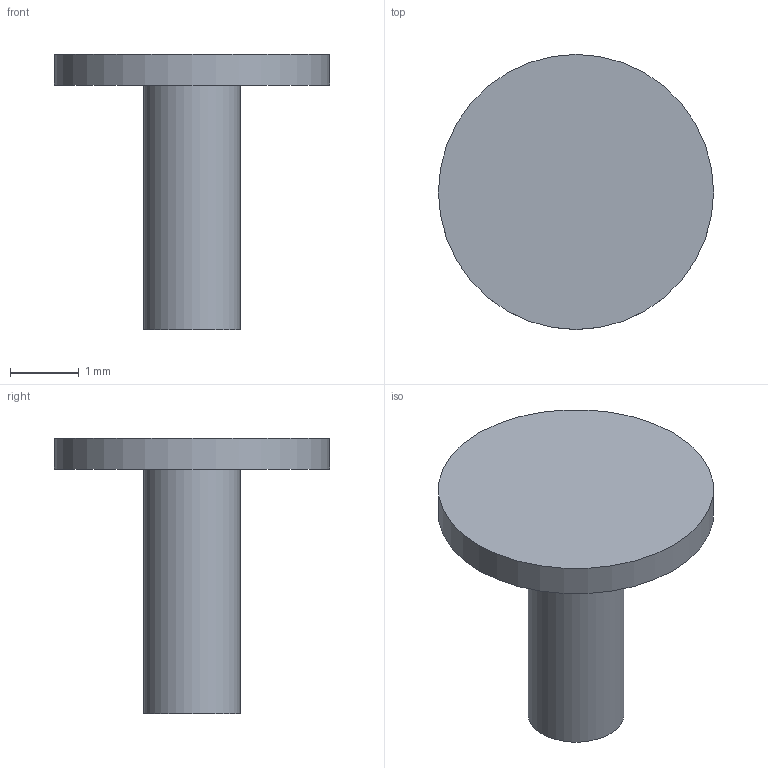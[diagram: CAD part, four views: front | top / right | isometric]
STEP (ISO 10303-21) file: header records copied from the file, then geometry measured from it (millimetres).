
FILE_DESCRIPTION(('Open CASCADE Model'),'2;1');
FILE_NAME('Open CASCADE Shape Model','2026-10-24T14:45:54',('Author'),( 'Open CASCADE'),'Open CASCADE STEP processor 7.7','Open CASCADE 7.7' ,'Unknown');
FILE_SCHEMA(('AUTOMOTIVE_DESIGN { 1 0 10303 214 1 1 1 1 }'));
Length unit declared in the file: millimetre
Products named in the file (1): Open CASCADE STEP translator 7.7 4
Bounding box: 4 x 4 x 4.01 mm (x, y, z)
Volume: 11.1 mm3; surface area: 46.4 mm2
Topology: 1 solids, 1 shells, 5 faces, 6 edges, 4 vertices
Faces by surface type: plane 3, cylinder 2
Full cylindrical faces by diameter (mm): 1.4 x1, 4 x1
Entity records: 192 total; most frequent: DIRECTION 34, CARTESIAN_POINT 28, ORIENTED_EDGE 12, PCURVE 12, DEFINITIONAL_REPRESENTATION 12, AXIS2_PLACEMENT_3D 10, LINE 10, VECTOR 10
